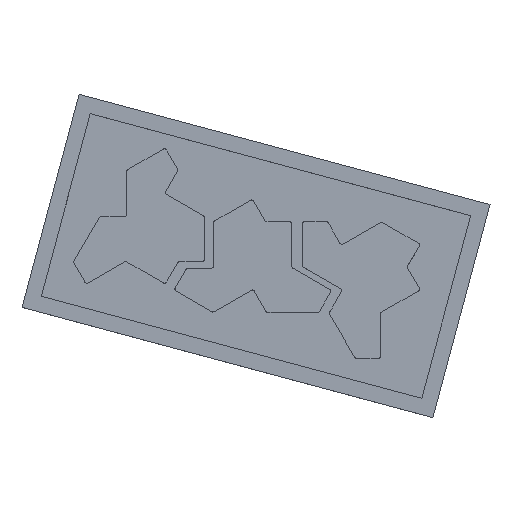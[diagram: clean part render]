
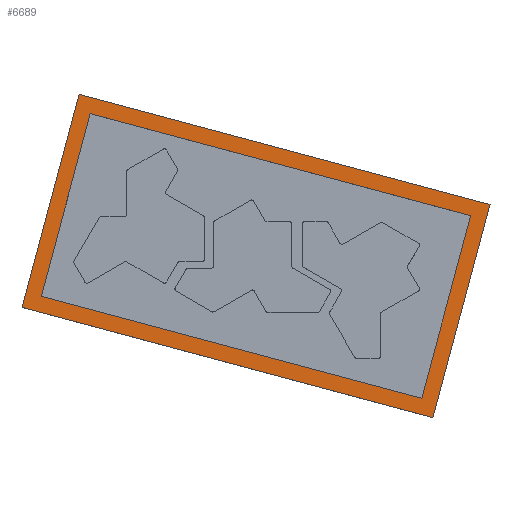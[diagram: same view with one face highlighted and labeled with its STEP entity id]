
A CAD part, top view. The second image highlights one B-rep face of the part: STEP entity #6689.
In plain terms, the highlighted planar face has unit normal (0, 0, 1).
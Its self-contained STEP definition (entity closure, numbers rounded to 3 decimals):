
#1622 = VERTEX_POINT('',#1623);
#1623 = CARTESIAN_POINT('',(-133.632,-22.653,15.));
#1631 = VERTEX_POINT('',#1632);
#1632 = CARTESIAN_POINT('',(-102.574,93.258,15.));
#1638 = EDGE_CURVE('',#1622,#1631,#1639,.T.);
#1639 = LINE('',#1640,#1641);
#1640 = CARTESIAN_POINT('',(-133.632,-22.653,15.));
#1641 = VECTOR('',#1642,1.);
#1642 = DIRECTION('',(0.259,0.966,0.));
#1654 = EDGE_CURVE('',#1631,#1655,#1657,.T.);
#1655 = VERTEX_POINT('',#1656);
#1656 = CARTESIAN_POINT('',(138.907,28.553,15.));
#1657 = LINE('',#1658,#1659);
#1658 = CARTESIAN_POINT('',(-102.574,93.258,15.));
#1659 = VECTOR('',#1660,1.);
#1660 = DIRECTION('',(0.966,-0.259,0.));
#1678 = EDGE_CURVE('',#1622,#1679,#1681,.T.);
#1679 = VERTEX_POINT('',#1680);
#1680 = CARTESIAN_POINT('',(107.849,-87.358,15.));
#1681 = LINE('',#1682,#1683);
#1682 = CARTESIAN_POINT('',(-133.632,-22.653,15.));
#1683 = VECTOR('',#1684,1.);
#1684 = DIRECTION('',(0.966,-0.259,0.));
#1703 = EDGE_CURVE('',#1679,#1655,#1704,.T.);
#1704 = LINE('',#1705,#1706);
#1705 = CARTESIAN_POINT('',(107.849,-87.358,15.));
#1706 = VECTOR('',#1707,1.);
#1707 = DIRECTION('',(0.259,0.966,0.));
#6689 = ADVANCED_FACE('',(#6690,#6724),#6730,.T.);
#6690 = FACE_BOUND('',#6691,.T.);
#6691 = EDGE_LOOP('',(#6692,#6702,#6710,#6718));
#6692 = ORIENTED_EDGE('',*,*,#6693,.F.);
#6693 = EDGE_CURVE('',#6694,#6696,#6698,.T.);
#6694 = VERTEX_POINT('',#6695);
#6695 = CARTESIAN_POINT('',(-145.88,-29.725,15.));
#6696 = VERTEX_POINT('',#6697);
#6697 = CARTESIAN_POINT('',(-109.645,105.505,15.));
#6698 = LINE('',#6699,#6700);
#6699 = CARTESIAN_POINT('',(-145.88,-29.725,15.));
#6700 = VECTOR('',#6701,1.);
#6701 = DIRECTION('',(0.259,0.966,0.));
#6702 = ORIENTED_EDGE('',*,*,#6703,.T.);
#6703 = EDGE_CURVE('',#6694,#6704,#6706,.T.);
#6704 = VERTEX_POINT('',#6705);
#6705 = CARTESIAN_POINT('',(114.92,-99.606,15.));
#6706 = LINE('',#6707,#6708);
#6707 = CARTESIAN_POINT('',(-145.88,-29.725,15.));
#6708 = VECTOR('',#6709,1.);
#6709 = DIRECTION('',(0.966,-0.259,0.));
#6710 = ORIENTED_EDGE('',*,*,#6711,.T.);
#6711 = EDGE_CURVE('',#6704,#6712,#6714,.T.);
#6712 = VERTEX_POINT('',#6713);
#6713 = CARTESIAN_POINT('',(151.155,35.624,15.));
#6714 = LINE('',#6715,#6716);
#6715 = CARTESIAN_POINT('',(114.92,-99.606,15.));
#6716 = VECTOR('',#6717,1.);
#6717 = DIRECTION('',(0.259,0.966,0.));
#6718 = ORIENTED_EDGE('',*,*,#6719,.F.);
#6719 = EDGE_CURVE('',#6696,#6712,#6720,.T.);
#6720 = LINE('',#6721,#6722);
#6721 = CARTESIAN_POINT('',(-109.645,105.505,15.));
#6722 = VECTOR('',#6723,1.);
#6723 = DIRECTION('',(0.966,-0.259,0.));
#6724 = FACE_BOUND('',#6725,.T.);
#6725 = EDGE_LOOP('',(#6726,#6727,#6728,#6729));
#6726 = ORIENTED_EDGE('',*,*,#1678,.F.);
#6727 = ORIENTED_EDGE('',*,*,#1638,.T.);
#6728 = ORIENTED_EDGE('',*,*,#1654,.T.);
#6729 = ORIENTED_EDGE('',*,*,#1703,.F.);
#6730 = PLANE('',#6731);
#6731 = AXIS2_PLACEMENT_3D('',#6732,#6733,#6734);
#6732 = CARTESIAN_POINT('',(-145.88,-29.725,15.));
#6733 = DIRECTION('',(0.,0.,1.));
#6734 = DIRECTION('',(0.966,-0.259,0.));
